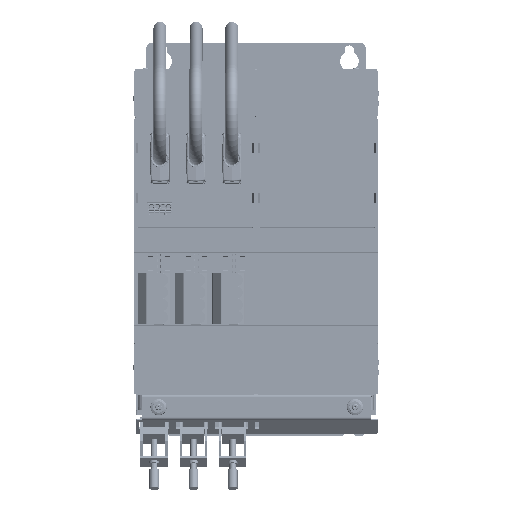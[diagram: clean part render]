
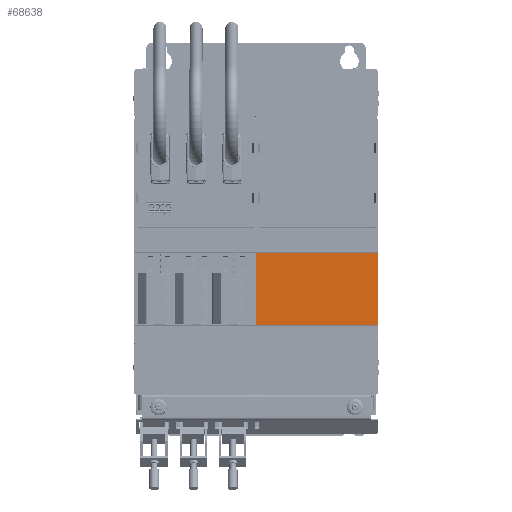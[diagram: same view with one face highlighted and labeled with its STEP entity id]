
A CAD part, front view. The second image highlights one B-rep face of the part: STEP entity #68638.
In plain terms, the highlighted planar face has unit normal (0, -1, 0) as drawn and (0, 0, 1) by its records, which use the part's own axes.
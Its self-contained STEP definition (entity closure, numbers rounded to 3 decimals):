
#10630 = DIRECTION ( 'NONE',  ( -1., 0., 0. ) ) ;
#17891 = EDGE_CURVE ( 'NONE', #42981, #140488, #263590, .T. ) ;
#24499 = PLANE ( 'NONE',  #234062 ) ;
#27588 = CARTESIAN_POINT ( 'NONE',  ( -37.5, 100., 24. ) ) ;
#35367 = CARTESIAN_POINT ( 'NONE',  ( -37.5, -56.85, 24. ) ) ;
#36749 = CARTESIAN_POINT ( 'NONE',  ( 37.5, -56.85, 24. ) ) ;
#37952 = CARTESIAN_POINT ( 'NONE',  ( 37.5, -12.05, 24. ) ) ;
#42981 = VERTEX_POINT ( 'NONE', #327987 ) ;
#47200 = DIRECTION ( 'NONE',  ( 0., 1., 0. ) ) ;
#56745 = VECTOR ( 'NONE', #10630, 1000. ) ;
#65356 = VECTOR ( 'NONE', #47200, 1000. ) ;
#68638 = ADVANCED_FACE ( 'NONE', ( #289541 ), #24499, .T. ) ;
#74812 = EDGE_CURVE ( 'NONE', #200866, #286122, #306548, .T. ) ;
#97741 = CARTESIAN_POINT ( 'NONE',  ( -36.5, -12.05, 24. ) ) ;
#140488 = VERTEX_POINT ( 'NONE', #35367 ) ;
#142503 = DIRECTION ( 'NONE',  ( 1., 0., 0. ) ) ;
#158663 = DIRECTION ( 'NONE',  ( 1., 0., 0. ) ) ;
#200866 = VERTEX_POINT ( 'NONE', #36749 ) ;
#203640 = DIRECTION ( 'NONE',  ( 0., -1., 0. ) ) ;
#212895 = LINE ( 'NONE', #245716, #311168 ) ;
#234062 = AXIS2_PLACEMENT_3D ( 'NONE', #293351, #264303, #142503 ) ;
#245716 = CARTESIAN_POINT ( 'NONE',  ( -36.5, -56.85, 24. ) ) ;
#246660 = LINE ( 'NONE', #97741, #56745 ) ;
#259436 = ORIENTED_EDGE ( 'NONE', *, *, #304158, .T. ) ;
#261812 = ORIENTED_EDGE ( 'NONE', *, *, #74812, .T. ) ;
#263344 = VECTOR ( 'NONE', #203640, 1000. ) ;
#263590 = LINE ( 'NONE', #27588, #263344 ) ;
#264303 = DIRECTION ( 'NONE',  ( 0., 0., 1. ) ) ;
#277536 = CARTESIAN_POINT ( 'NONE',  ( 37.5, -100., 24. ) ) ;
#286122 = VERTEX_POINT ( 'NONE', #37952 ) ;
#289541 = FACE_OUTER_BOUND ( 'NONE', #370790, .T. ) ;
#293351 = CARTESIAN_POINT ( 'NONE',  ( 0., 0., 24. ) ) ;
#304158 = EDGE_CURVE ( 'NONE', #140488, #200866, #212895, .T. ) ;
#306548 = LINE ( 'NONE', #277536, #65356 ) ;
#311168 = VECTOR ( 'NONE', #158663, 1000. ) ;
#327987 = CARTESIAN_POINT ( 'NONE',  ( -37.5, -12.05, 24. ) ) ;
#333773 = ORIENTED_EDGE ( 'NONE', *, *, #338425, .T. ) ;
#337907 = ORIENTED_EDGE ( 'NONE', *, *, #17891, .T. ) ;
#338425 = EDGE_CURVE ( 'NONE', #286122, #42981, #246660, .T. ) ;
#370790 = EDGE_LOOP ( 'NONE', ( #259436, #261812, #333773, #337907 ) ) ;
